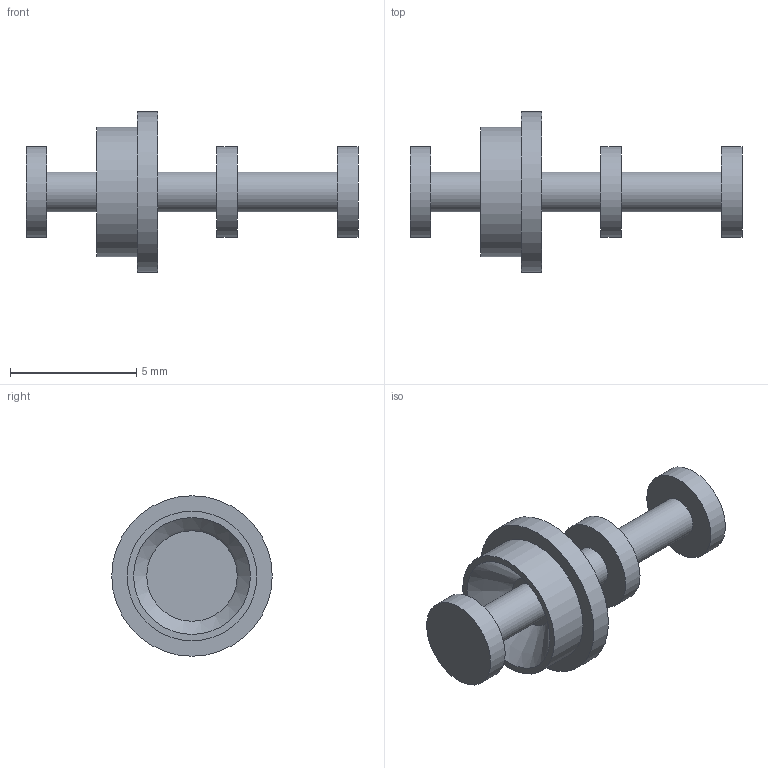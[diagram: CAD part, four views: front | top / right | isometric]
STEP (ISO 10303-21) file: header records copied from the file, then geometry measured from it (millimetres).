
FILE_DESCRIPTION(/* description */ (''),/* implementation_level */ '2;1');
FILE_NAME(/* name */ 'Z:\STEP folder\160-1579-01.ipt.stp',/* time_stamp */ '2016-12-07T10:48:07+00:00',/* author */ ('Paul Karlsons'),/* organization */ (''),/* preprocessor_version */ 'ST-DEVELOPER v15.2',/* originating_system */ 'Autodesk Inventor 2014',/* authorisation */ '');
FILE_SCHEMA (('AUTOMOTIVE_DESIGN { 1 0 10303 214 3 1 1 }'));
Length unit declared in the file: millimetre
Products named in the file (1): 160-1579-01
Bounding box: 13.13 x 6.35 x 6.35 mm (x, y, z)
Volume: 90.2 mm3; surface area: 234.3 mm2
Topology: 1 solids, 1 shells, 19 faces, 27 edges, 18 vertices
Faces by surface type: plane 10, cylinder 8, cone 1
Full cylindrical faces by diameter (mm): 1.575 x3, 3.581 x3, 5.131 x1, 6.35 x1
Entity records: 395 total; most frequent: DIRECTION 76, CARTESIAN_POINT 56, AXIS2_PLACEMENT_3D 38, EDGE_LOOP 36, ORIENTED_EDGE 36, FACE_BOUND 20, ADVANCED_FACE 19, CIRCLE 18
